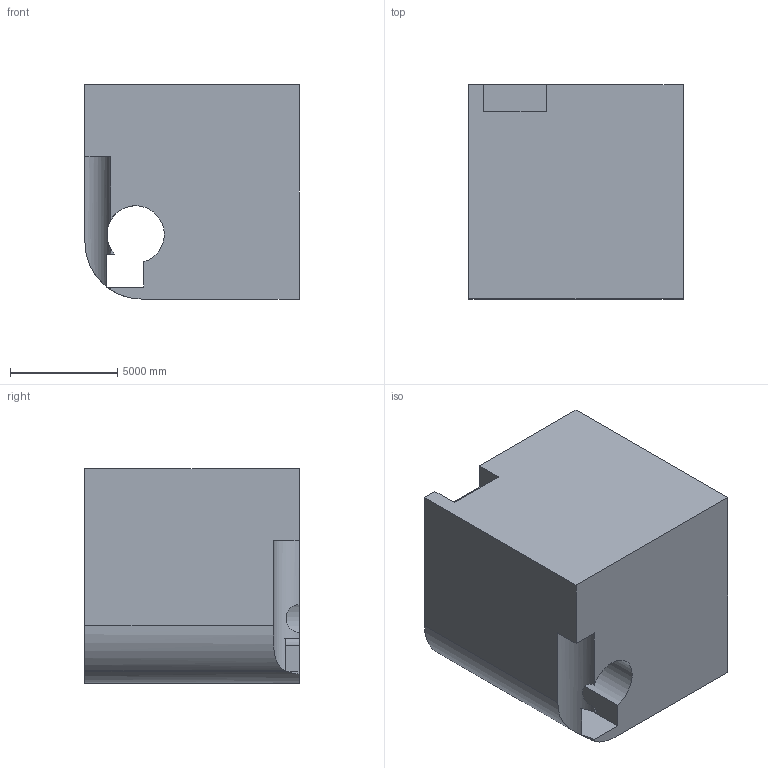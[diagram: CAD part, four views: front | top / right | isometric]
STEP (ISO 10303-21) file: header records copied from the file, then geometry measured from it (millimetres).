
FILE_DESCRIPTION (( 'STEP AP203' ), '1' );
FILE_NAME ('575.STEP', '2022-07-29T11:53:53', ( 'user' ), ( '' ), 'SwSTEP 2.0', 'SolidWorks 2021', '' );
FILE_SCHEMA (( 'CONFIG_CONTROL_DESIGN' ));
Length unit declared in the file: centimetre
Products named in the file (1): 575
Bounding box: 10000 x 10000 x 10000 mm (x, y, z)
Volume: 875422815643.3 mm3; surface area: 730668215.8 mm2
Topology: 1 solids, 1 shells, 28 faces, 72 edges, 48 vertices
Faces by surface type: plane 18, cylinder 10
Entity records: 1137 total; most frequent: CARTESIAN_POINT 360, DIRECTION 146, ORIENTED_EDGE 144, EDGE_CURVE 72, LINE 50, VECTOR 50, VERTEX_POINT 48, AXIS2_PLACEMENT_3D 48
